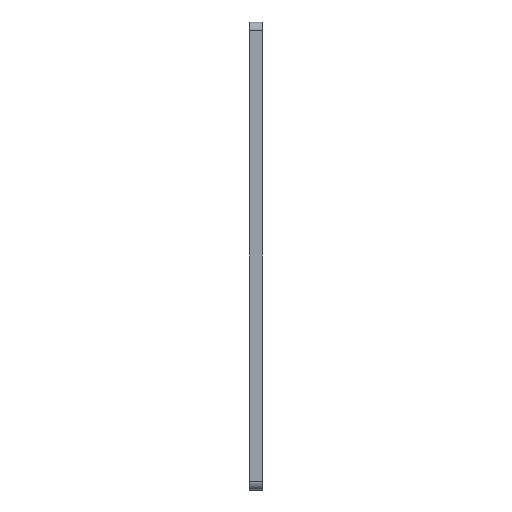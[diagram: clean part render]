
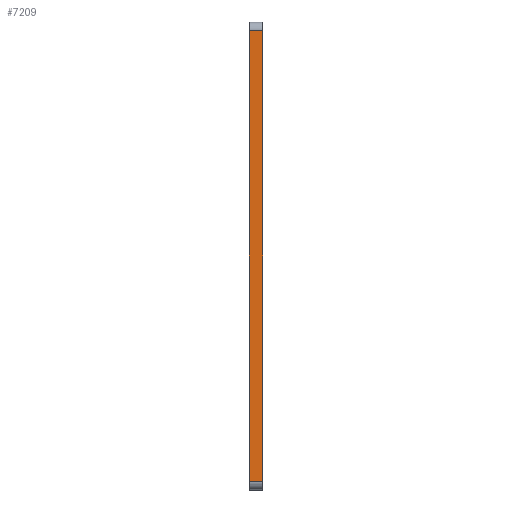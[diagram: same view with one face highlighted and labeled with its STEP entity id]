
A CAD part, left-side view. The second image highlights one B-rep face of the part: STEP entity #7209.
In plain terms, the highlighted planar face has unit normal (-1, 0, 0).
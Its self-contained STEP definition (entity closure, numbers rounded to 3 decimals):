
#61 = VERTEX_POINT ( 'NONE', #1310 ) ;
#343 = LINE ( 'NONE', #6543, #6727 ) ;
#506 = DIRECTION ( 'NONE',  ( 0., 1., 0. ) ) ;
#532 = CARTESIAN_POINT ( 'NONE',  ( -145., 15., -385. ) ) ;
#570 = EDGE_LOOP ( 'NONE', ( #5446, #1712, #739, #6093 ) ) ;
#739 = ORIENTED_EDGE ( 'NONE', *, *, #2589, .T. ) ;
#1310 = CARTESIAN_POINT ( 'NONE',  ( -145., 15., -375. ) ) ;
#1580 = CARTESIAN_POINT ( 'NONE',  ( -145., 0., -375. ) ) ;
#1703 = CARTESIAN_POINT ( 'NONE',  ( -145., 15., -375. ) ) ;
#1712 = ORIENTED_EDGE ( 'NONE', *, *, #2419, .T. ) ;
#1745 = FACE_OUTER_BOUND ( 'NONE', #570, .T. ) ;
#1788 = DIRECTION ( 'NONE',  ( 1., 0., 0. ) ) ;
#1905 = DIRECTION ( 'NONE',  ( 0., 0., -1. ) ) ;
#2402 = VERTEX_POINT ( 'NONE', #7872 ) ;
#2419 = EDGE_CURVE ( 'NONE', #61, #6195, #5265, .T. ) ;
#2589 = EDGE_CURVE ( 'NONE', #6195, #3183, #7953, .T. ) ;
#2997 = DIRECTION ( 'NONE',  ( 0., 0., 1. ) ) ;
#3183 = VERTEX_POINT ( 'NONE', #7885 ) ;
#4176 = DIRECTION ( 'NONE',  ( 0., 0., 1. ) ) ;
#4218 = LINE ( 'NONE', #5315, #7712 ) ;
#4638 = EDGE_CURVE ( 'NONE', #61, #2402, #4218, .T. ) ;
#5125 = VECTOR ( 'NONE', #6645, 1000. ) ;
#5265 = LINE ( 'NONE', #1703, #5125 ) ;
#5315 = CARTESIAN_POINT ( 'NONE',  ( -145., 15., -385. ) ) ;
#5446 = ORIENTED_EDGE ( 'NONE', *, *, #4638, .F. ) ;
#5644 = VECTOR ( 'NONE', #2997, 1000. ) ;
#5952 = AXIS2_PLACEMENT_3D ( 'NONE', #532, #1788, #1905 ) ;
#6093 = ORIENTED_EDGE ( 'NONE', *, *, #6772, .T. ) ;
#6118 = CARTESIAN_POINT ( 'NONE',  ( -145., 0., -385. ) ) ;
#6195 = VERTEX_POINT ( 'NONE', #1580 ) ;
#6543 = CARTESIAN_POINT ( 'NONE',  ( -145., 15., 135. ) ) ;
#6645 = DIRECTION ( 'NONE',  ( 0., -1., 0. ) ) ;
#6688 = PLANE ( 'NONE',  #5952 ) ;
#6727 = VECTOR ( 'NONE', #506, 1000. ) ;
#6772 = EDGE_CURVE ( 'NONE', #3183, #2402, #343, .T. ) ;
#7209 = ADVANCED_FACE ( 'NONE', ( #1745 ), #6688, .F. ) ;
#7712 = VECTOR ( 'NONE', #4176, 1000. ) ;
#7872 = CARTESIAN_POINT ( 'NONE',  ( -145., 15., 135. ) ) ;
#7885 = CARTESIAN_POINT ( 'NONE',  ( -145., 0., 135. ) ) ;
#7953 = LINE ( 'NONE', #6118, #5644 ) ;
